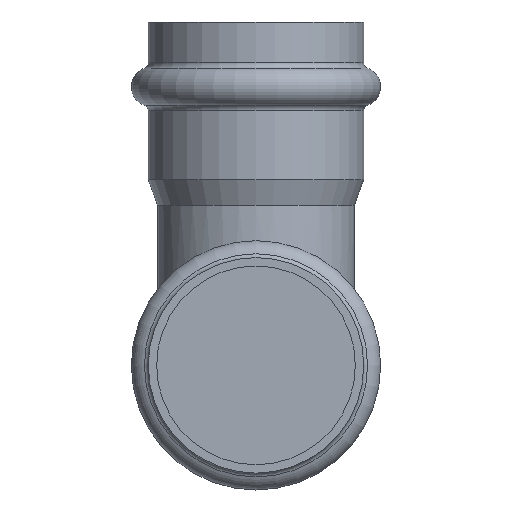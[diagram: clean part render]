
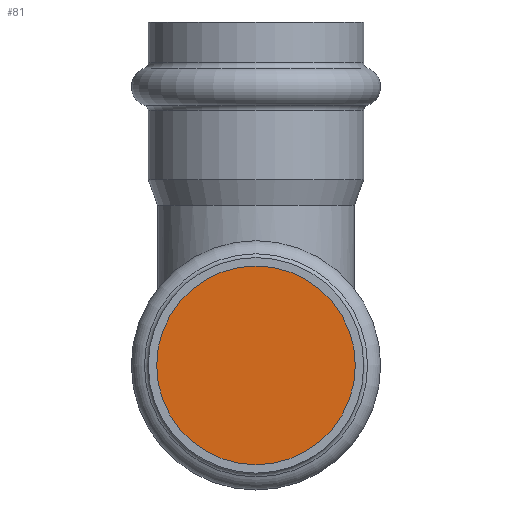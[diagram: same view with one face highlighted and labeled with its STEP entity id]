
A CAD part, front view. The second image highlights one B-rep face of the part: STEP entity #81.
In plain terms, the highlighted planar face has unit normal (0, -1, 0).
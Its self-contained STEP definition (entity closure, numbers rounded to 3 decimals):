
#81=ADVANCED_FACE('',(#332),#334,.T.);
#332=FACE_BOUND('',#333,.T.);
#333=EDGE_LOOP('',(#400));
#334=PLANE('',#335);
#335=AXIS2_PLACEMENT_3D('',#336,#337,#338);
#336=CARTESIAN_POINT('',(0.,-48.743,0.));
#337=DIRECTION('',(0.,-1.,0.));
#338=DIRECTION('',(0.,0.,-1.));
#400=ORIENTED_EDGE('',*,*,#431,.T.);
#431=EDGE_CURVE('',#492,#492,#493,.F.);
#492=VERTEX_POINT('',#644);
#493=CIRCLE('',#645,17.65);
#644=CARTESIAN_POINT('',(0.,-48.743,17.65));
#645=AXIS2_PLACEMENT_3D('',#646,#647,#648);
#646=CARTESIAN_POINT('',(0.,-48.743,0.));
#647=DIRECTION('',(0.,1.,0.));
#648=DIRECTION('',(0.,0.,1.));
